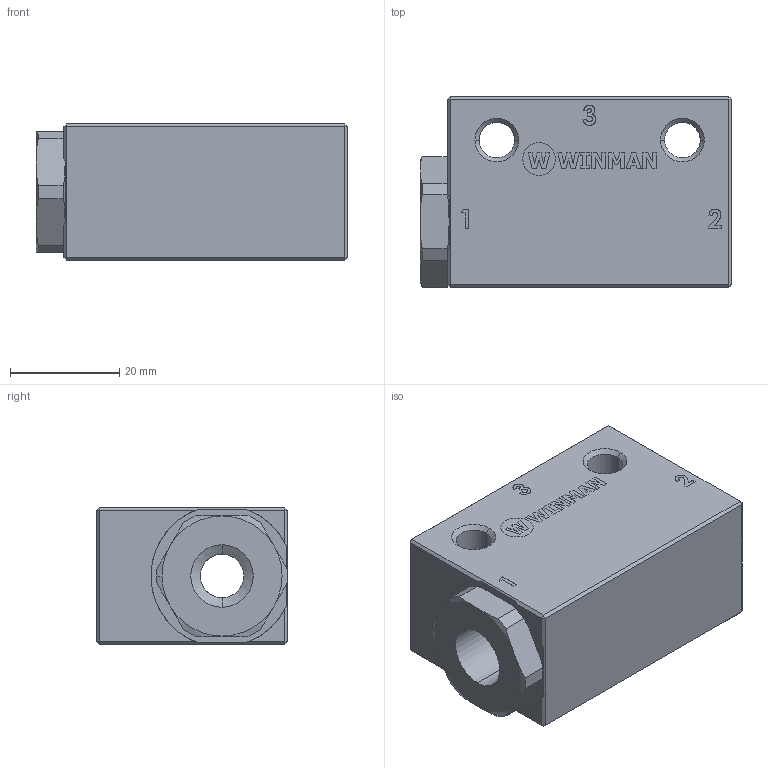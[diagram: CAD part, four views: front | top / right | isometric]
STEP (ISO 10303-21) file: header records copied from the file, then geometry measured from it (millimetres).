
FILE_DESCRIPTION (( 'STEP AP214' ), '1' );
FILE_NAME ('VUSF-140 (3DMY).STEP', '2017-08-03T10:53:23', ( 'Hidtek' ), ( '' ), 'SwSTEP 2.0', 'SolidWorks 2016', '' );
FILE_SCHEMA (( 'AUTOMOTIVE_DESIGN' ));
Length unit declared in the file: millimetre
Products named in the file (1): VUSF-140 (3DMY)
Bounding box: 57 x 35 x 25 mm (x, y, z)
Volume: 39248.6 mm3; surface area: 11372.1 mm2
Topology: 1 solids, 1 shells, 225 faces, 569 edges, 360 vertices
Faces by surface type: plane 154, bspline 33, cylinder 24, cone 14
Entity records: 9290 total; most frequent: CARTESIAN_POINT 2690, ORIENTED_EDGE 1138, DIRECTION 909, EDGE_CURVE 569, VECTOR 415, LINE 415, VERTEX_POINT 360, EDGE_LOOP 247
